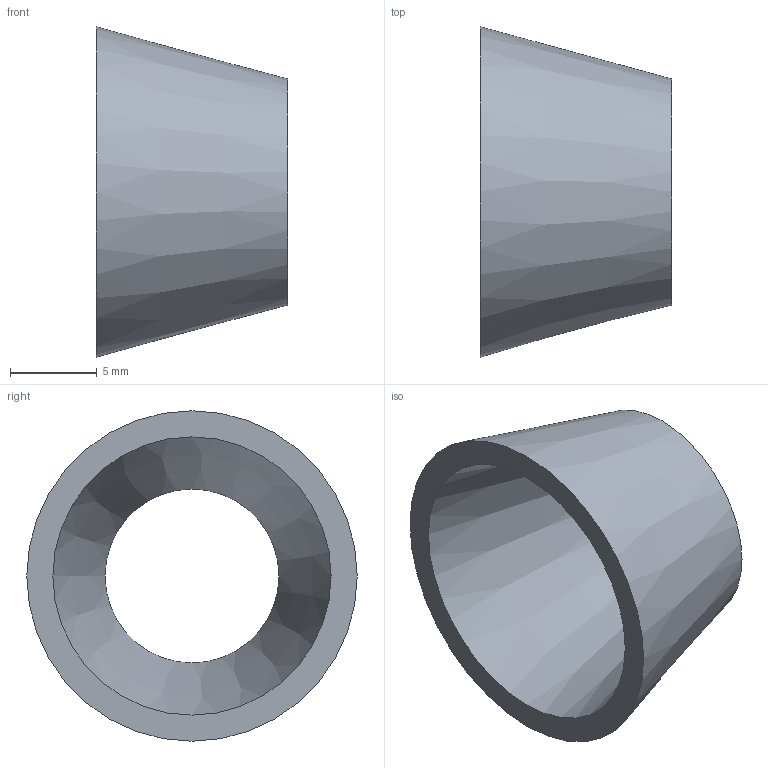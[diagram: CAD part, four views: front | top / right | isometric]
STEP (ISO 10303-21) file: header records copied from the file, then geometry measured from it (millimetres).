
FILE_DESCRIPTION(('FreeCAD Model'),'2;1');
FILE_NAME( '/home/martin/Documents/proyect/accesorios/stp/red-con_DN15-10.step', '2017-12-31T12:22:39',('Author'),(''), 'Open CASCADE STEP processor 6.8','FreeCAD','Unknown');
FILE_SCHEMA(('AUTOMOTIVE_DESIGN_CC2 { 1 2 10303 214 -1 1 5 4 }'));
Length unit declared in the file: millimetre
Products named in the file (1): red-con_DN15-10
Bounding box: 11 x 19 x 19 mm (x, y, z)
Volume: 751.6 mm3; surface area: 1175.4 mm2
Topology: 1 solids, 1 shells, 4 faces, 6 edges, 4 vertices
Faces by surface type: cone 2, plane 2
Entity records: 191 total; most frequent: CARTESIAN_POINT 33, DIRECTION 26, ORIENTED_EDGE 12, PCURVE 12, DEFINITIONAL_REPRESENTATION 12, AXIS2_PLACEMENT_3D 9, CIRCLE 8, FACE_BOUND 6
